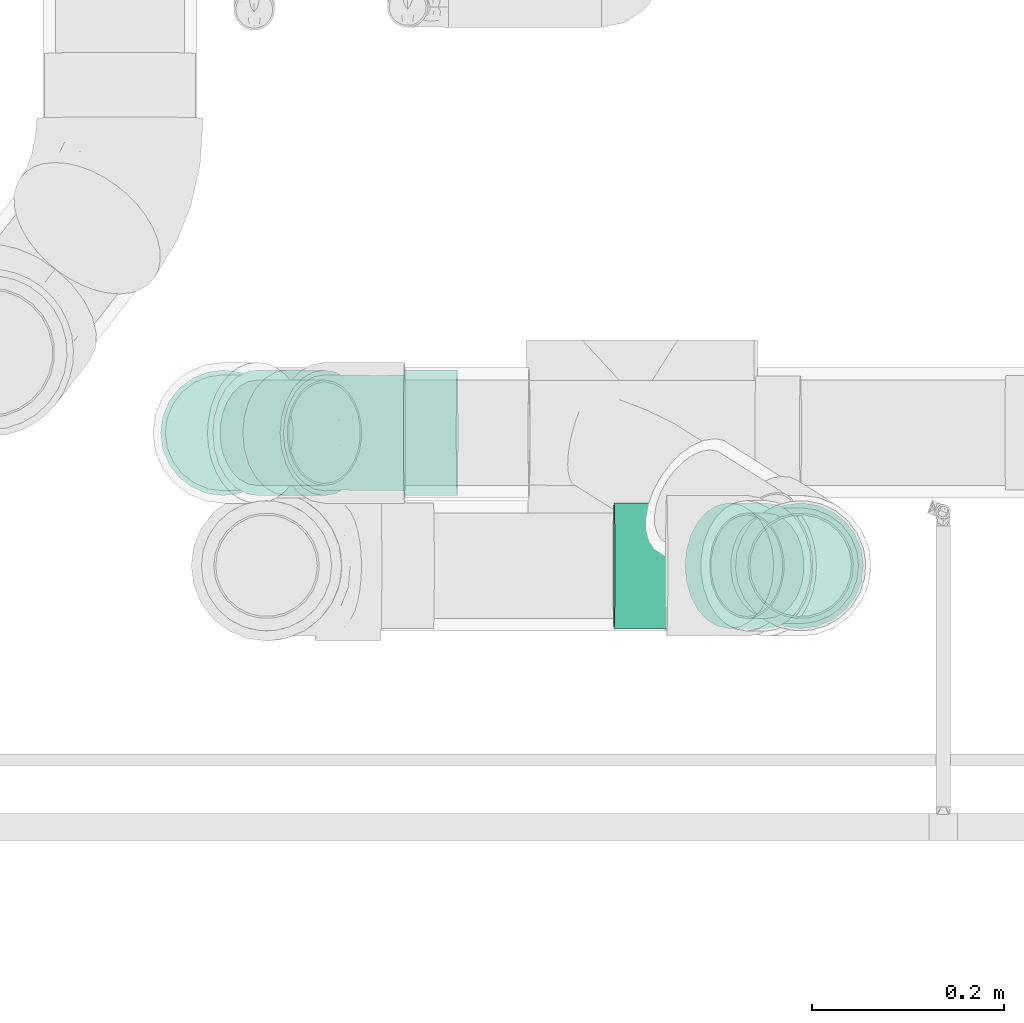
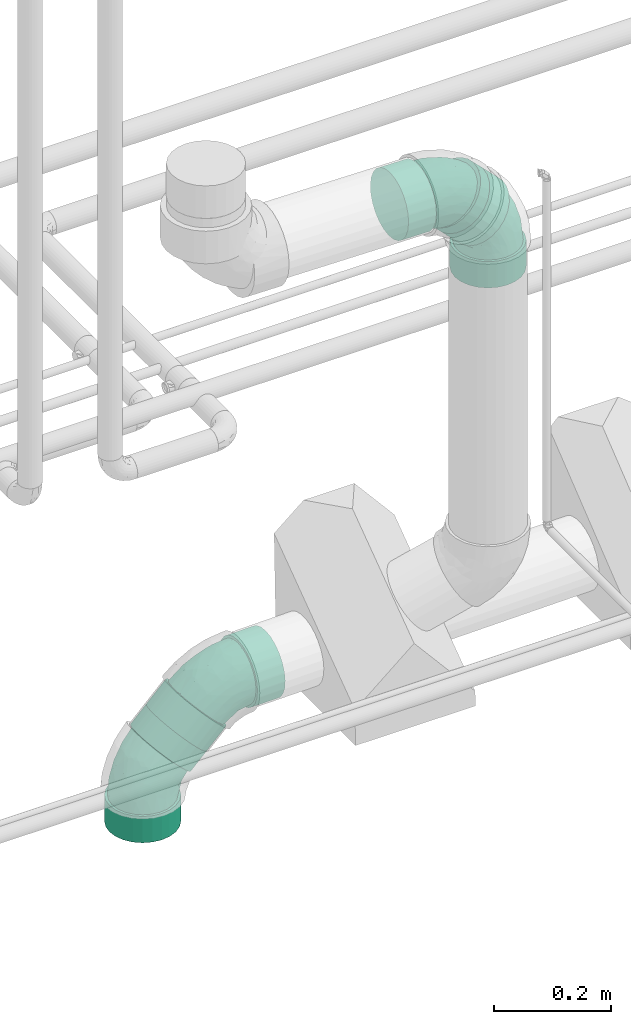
# One storey, part 55 of 156: 4 flow fittings.
"""IFC2X3 building model written with IfcOpenShell, lengths in millimetres."""

from ifc_helpers import new_model, entity, si_unit, converted_unit, derived_unit, direction, frame, origin_with_axes, place, context, subcontext, project, spatial, open_shell, surface_model, source, transform, mapped, type_object, element, save


model = new_model("IFC2X3")

# Units and contexts
model_context = context("Model", 3, precision=0.01, world=frame((0.0, 4.29681676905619e-09, 0.0)), true_north=direction((4.01073788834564e-13, 1.0)))
plan_context = context("Plan", 3, precision=0.01, world=frame((0.0, 4.29681676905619e-09, 0.0)), true_north=direction((4.01073788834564e-13, 1.0)))
body_context = subcontext(model_context, "Body", "Model", "MODEL_VIEW")
ifc_project = project(units=[converted_unit("PLANEANGLEUNIT", "DEGREE", entity("IfcPositiveLengthMeasure", 0.0174532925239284), si_unit("PLANEANGLEUNIT", "RADIAN"), dimensions=[0, 0, 0, 0, 0, 0, 0]), si_unit("AREAUNIT", "SQUARE_METRE"), si_unit("LENGTHUNIT", "METRE", prefix="MILLI"), si_unit("MASSUNIT", "GRAM", prefix="KILO"), si_unit("POWERUNIT", "WATT"), si_unit("PRESSUREUNIT", "PASCAL", prefix="KILO"), si_unit("FORCEUNIT", "NEWTON", prefix="KILO"), si_unit("ELECTRICVOLTAGEUNIT", "VOLT"), si_unit("ELECTRICCURRENTUNIT", "AMPERE"), si_unit("THERMODYNAMICTEMPERATUREUNIT", "DEGREE_CELSIUS"), si_unit("TIMEUNIT", "SECOND"), si_unit("VOLUMEUNIT", "CUBIC_METRE"), derived_unit("LINEARVELOCITYUNIT", [(si_unit("LENGTHUNIT", "METRE"), 1), (si_unit("TIMEUNIT", "SECOND"), -1)]), derived_unit("VOLUMETRICFLOWRATEUNIT", [(si_unit("VOLUMEUNIT", "CUBIC_METRE"), 1), (si_unit("TIMEUNIT", "SECOND"), -1)]), derived_unit("THERMALTRANSMITTANCEUNIT", [(si_unit("POWERUNIT", "WATT"), 1), (si_unit("THERMODYNAMICTEMPERATUREUNIT", "KELVIN"), -1), (si_unit("AREAUNIT", "SQUARE_METRE"), -1)]), derived_unit("SOUNDPRESSUREUNIT", [(si_unit("PRESSUREUNIT", "PASCAL"), 1)])], contexts=[model_context, plan_context])

# Site, building, storey
site_placement = place(None, frame((0.0, -4.29681676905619e-09, 0.0), z_axis=(0.0, 0.0, 1.0), x_axis=(1.0, 0.0, 0.0)))
site = spatial("IfcSite", under=ifc_project, at=site_placement, CompositionType="ELEMENT")
building_placement = place(site_placement, frame((0.0, 4.29681676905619e-09, 0.0), z_axis=(0.0, 0.0, 1.0), x_axis=(1.0, 0.0, 0.0)))
building = spatial("IfcBuilding", under=site, at=building_placement, Name="mc-building", CompositionType="ELEMENT")
storey_placement = place(building_placement, frame((0.0, 0.0, 205200.0), z_axis=(0.0, 0.0, 1.0), x_axis=(1.0, 0.0, 0.0)))
storey = spatial("IfcBuildingStorey", under=building, at=storey_placement, Name="Nivå D + 1,2 m", CompositionType="ELEMENT", Elevation=205200.0)

# Flow fittings
pipe_fitting_type = type_object("IfcPipeFittingType", Name="magi_sewer_bend_001", PredefinedType="BEND")
shared_shape_1 = source(origin_with_axes(), body_context, "Body", "SurfaceModel", [
    surface_model("IfcShellBasedSurfaceModel", [(-105.11984, -63.26814, -16.95265), (-105.11984, -16.95265, -63.26814), (-105.11984, -32.75, -56.72466), (-105.11984, -56.72466, -32.75), (-105.11984, -46.3155, -46.3155), (-105.11984, 46.3155, -46.3155), (-105.11984, -65.5, 0.0), (-105.11984, 32.75, -56.72466), (-105.11984, 16.95265, -63.26814), (-105.11984, 0.0, -65.5), (-105.11984, 63.26814, -16.95265), (-105.11984, 56.72466, -32.75), (-105.11984, -63.26814, 16.95265), (-105.11984, -56.72466, 32.75), (-105.11984, -46.3155, 46.3155), (-105.11984, 65.5, 0.0), (-105.11984, -16.95265, 63.26814), (-105.11984, -32.75, 56.72466), (-105.11984, 16.95265, 63.26814), (-105.11984, 0.0, 65.5), (-105.11984, 56.72466, 32.75), (-105.11984, 63.26814, 16.95265), (-105.11984, 46.3155, 46.3155), (-105.11984, 32.75, 56.72466), (-50.11984, -16.95265, 63.26814), (-50.11984, 16.95265, 63.26814), (-50.11984, 0.0, 65.5), (-50.11984, -46.3155, 46.3155), (-50.11984, -32.75, 56.72466), (-50.11984, -56.72466, 32.75), (-50.11984, -63.26814, 16.95265), (-50.11984, 65.5, 0.0), (-50.11984, 46.3155, 46.3155), (-50.11984, 32.75, 56.72466), (-50.11984, 56.72466, 32.75), (-50.11984, 63.26814, 16.95265), (-50.11984, -63.26814, -16.95265), (-50.11984, -16.95265, -63.26814), (-50.11984, -56.72466, -32.75), (-50.11984, -32.75, -56.72466), (-50.11984, -46.3155, -46.3155), (-50.11984, 46.3155, -46.3155), (-50.11984, 63.26814, -16.95265), (-50.11984, 56.72466, -32.75), (-50.11984, 32.75, -56.72466), (-50.11984, 16.95265, -63.26814), (-50.11984, 0.0, -65.5), (-50.11984, -65.5, 0.0), (29.59362, 119.06829, 16.95265), (34.22056, 114.44134, 32.75), (41.58095, 107.08095, 46.3155), (51.17321, 97.4887, 56.72466), (28.01546, 120.64645, 0.0), (62.34362, 86.31829, 63.26814), (74.33095, 74.33095, -65.5), (34.22056, 114.44134, -32.75), (29.59362, 119.06829, -16.95265), (41.58095, 107.08095, -46.3155), (62.34362, 86.31829, -63.26814), (51.17321, 97.4887, -56.72466), (74.33095, 74.33095, 65.5), (107.08095, 41.58095, -46.3155), (86.31829, 62.34362, 63.26814), (97.4887, 51.17321, 56.72466), (107.08095, 41.58095, 46.3155), (120.64645, 28.01546, 0.0), (114.44134, 34.22056, 32.75), (119.06829, 29.59362, 16.95265), (97.4887, 51.17321, -56.72466), (86.31829, 62.34362, -63.26814), (119.06829, 29.59362, -16.95265), (114.44134, 34.22056, -32.75), (81.75557, -10.87541, 0.0), (80.17741, -9.29725, 16.95265), (75.55048, -4.67032, 32.75), (68.19008, 2.69008, 46.3155), (58.59783, 12.28233, 56.72466), (47.42741, 23.45275, 63.26814), (23.45275, 47.42741, -63.26814), (35.44008, 35.44008, -65.5), (80.17741, -9.29725, -16.95265), (68.19008, 2.69008, -46.3155), (75.55048, -4.67032, -32.75), (58.59783, 12.28233, -56.72466), (47.42741, 23.45275, -63.26814), (23.45275, 47.42741, 63.26814), (12.28233, 58.59783, 56.72466), (2.69008, 68.19008, 46.3155), (-4.67032, 75.55048, 32.75), (-9.29725, 80.17741, 16.95265), (-10.87541, 81.75557, 0.0), (2.69008, 68.19008, -46.3155), (12.28233, 58.59783, -56.72466), (-9.29725, 80.17741, -16.95265), (-4.67032, 75.55048, -32.75), (35.44008, 35.44008, 65.5), (-50.11984, 30.25, -52.39454), (-50.11984, 15.65855, -58.43851), (-50.11984, 0.0, -60.5), (-50.11984, 42.77996, -42.77996), (-50.11984, 58.43851, -15.65855), (-50.11984, 52.39454, -30.25), (-50.11984, -60.5, 0.0), (-50.11984, -42.77996, -42.77996), (-50.11984, -52.39454, -30.25), (-50.11984, -30.25, -52.39454), (-50.11984, -15.65855, -58.43851), (-50.11984, -58.43851, -15.65855), (-50.11984, -42.77996, 42.77996), (-50.11984, 58.43851, 15.65855), (-50.11984, 52.39454, 30.25), (-50.11984, 15.65855, 58.43851), (-50.11984, 30.25, 52.39454), (-50.11984, 42.77996, 42.77996), (-50.11984, -30.25, 52.39454), (-50.11984, -58.43851, 15.65855), (-50.11984, -52.39454, 30.25), (-50.11984, -15.65855, 58.43851), (-50.11984, 0.0, 60.5), (-50.11984, 60.5, 0.0), (35.44008, 35.44008, -60.5), (24.36781, 46.51235, -58.43851), (14.0501, 56.83006, -52.39454), (-5.88219, 76.76235, -15.65855), (5.19008, 65.69008, -42.77996), (-1.60845, 72.48861, -30.25), (46.51235, 24.36781, -58.43851), (65.69008, 5.19008, 42.77996), (56.83006, 14.0501, -52.39454), (72.48861, -1.60845, -30.25), (65.69008, 5.19008, -42.77996), (78.22004, -7.33988, 0.0), (76.76235, -5.88219, -15.65855), (-5.88219, 76.76235, 15.65855), (24.36781, 46.51235, 58.43851), (5.19008, 65.69008, 42.77996), (-1.60845, 72.48861, 30.25), (14.0501, 56.83006, 52.39454), (76.76235, -5.88219, 15.65855), (72.48861, -1.60845, 30.25), (56.83006, 14.0501, 52.39454), (35.44008, 35.44008, 60.5), (46.51235, 24.36781, 58.43851), (-7.33988, 78.22004, 0.0), (15.40898, -37.20057, 33.71482), (-13.38469, -34.19321, 46.68416), (-19.53618, -46.27104, 35.42508), (-20.21421, -56.56285, 0.0), (-3.14418, -54.31554, 0.0), (-12.91334, -55.73755, 10.33096), (46.53273, -18.9044, 35.42508), (-23.97238, -22.18485, 55.29389), (6.21199, -14.99708, 54.53161), (1.79579, 36.37132, 56.46814), (10.937, 28.63799, 59.62004), (-18.05654, -5.82509, 59.69848), (-5.75437, 13.89228, 60.2874), (-30.31328, 8.38356, 60.13285), (-17.18515, 41.48861, 49.39252), (-26.68033, 50.73817, 38.17957), (32.63809, 1.26397, 55.29389), (-23.24601, 25.1757, 56.55898), (23.34807, -39.59646, 23.84351), (-10.84785, -52.34167, 21.0101), (18.78371, -45.3479, 13.14971), (-24.92328, 60.17012, 24.85601), (48.54351, -30.28129, 10.33096), (54.28958, -25.70237, 0.0), (-24.23293, 64.82746, 12.71177), (44.68174, -29.34056, 21.0101), (16.88687, 8.64894, 59.69848), (33.64265, -14.71385, 46.68416), (-26.96749, 65.10529, 0.0), (10.1548, -24.51586, 48.24539), (18.74299, -45.24957, 0.0), (40.63016, -36.18361, 0.0), (-18.05654, -5.82509, -59.69848), (-12.91334, -55.73755, -10.33096), (18.78371, -45.3479, -13.1497), (16.88687, 8.64894, -59.69848), (-26.98822, 24.44859, -56.46814), (-27.98374, 12.51649, -59.62004), (-17.01146, 54.74315, -38.17957), (33.64265, -14.71385, -46.68416), (-24.92328, 60.17012, -24.85601), (44.68174, -29.34056, -21.0101), (-28.70466, 62.9752, -12.71176), (-1.3645, 34.23932, -56.55898), (-10.84785, -52.34167, -21.0101), (-17.18515, 41.48861, -49.39253), (-19.53618, -46.27104, -35.42508), (-13.38469, -34.19321, -46.68416), (10.1548, -24.51586, -48.24539), (15.40898, -37.20057, -33.71482), (-23.97238, -22.18485, -55.29389), (32.63809, 1.26397, -55.29389), (6.21199, -14.99708, -54.53161), (48.54351, -30.28129, -10.33096), (15.50665, 27.3628, -60.13285), (11.48935, -44.50851, -23.84351), (46.53273, -18.9044, -35.42508), (-5.75437, 13.89228, -60.2874)], [open_shell([[[0, 1, 2]], [[3, 2, 4]], [[1, 0, 5]], [[0, 2, 3]], [[5, 0, 6]], [[1, 7, 8]], [[8, 9, 1]], [[5, 10, 11]], [[1, 5, 7]], [[6, 10, 5]], [[6, 12, 10]], [[12, 13, 14]], [[10, 14, 15]], [[15, 14, 16]], [[16, 14, 17]], [[18, 16, 19]], [[15, 20, 21]], [[20, 15, 22]], [[22, 18, 23]], [[18, 22, 15]], [[15, 16, 18]], [[14, 10, 12]], [[24, 25, 26]], [[27, 24, 28]], [[27, 29, 30]], [[24, 27, 31]], [[30, 31, 27]], [[25, 32, 33]], [[25, 24, 32]], [[34, 31, 35]], [[31, 34, 32]], [[24, 31, 32]], [[30, 36, 31]], [[31, 36, 37]], [[37, 36, 38]], [[39, 37, 38]], [[39, 38, 40]], [[37, 41, 31]], [[42, 41, 43]], [[31, 41, 42]], [[37, 44, 41]], [[37, 45, 44]], [[46, 45, 37]], [[36, 30, 47]], [[42, 10, 31]], [[43, 11, 42]], [[45, 46, 8]], [[41, 5, 43]], [[42, 11, 10]], [[10, 15, 31]], [[7, 44, 8]], [[7, 5, 41]], [[44, 45, 8]], [[5, 11, 43]], [[41, 44, 7]], [[46, 9, 8]], [[1, 37, 39]], [[40, 2, 39]], [[3, 38, 36]], [[40, 38, 4]], [[0, 36, 47]], [[37, 1, 9]], [[39, 2, 1]], [[40, 4, 2]], [[38, 3, 4]], [[0, 3, 36]], [[47, 6, 0]], [[37, 9, 46]], [[30, 12, 47]], [[29, 13, 30]], [[28, 17, 27]], [[27, 14, 29]], [[30, 13, 12]], [[12, 6, 47]], [[19, 16, 24]], [[16, 17, 28]], [[14, 27, 17]], [[14, 13, 29]], [[24, 16, 28]], [[24, 26, 19]], [[18, 25, 33]], [[32, 23, 33]], [[20, 34, 35]], [[32, 34, 22]], [[21, 35, 31]], [[25, 18, 19]], [[33, 23, 18]], [[32, 22, 23]], [[34, 20, 22]], [[21, 20, 35]], [[31, 15, 21]], [[25, 19, 26]], [[48, 49, 50]], [[48, 50, 51]], [[52, 51, 53]], [[51, 52, 48]], [[53, 54, 52]], [[52, 55, 56]], [[55, 52, 57]], [[57, 58, 59]], [[58, 57, 52]], [[58, 52, 54]], [[53, 60, 61]], [[62, 63, 64]], [[62, 64, 65]], [[66, 67, 65]], [[66, 65, 64]], [[62, 65, 61]], [[54, 68, 69]], [[68, 54, 61]], [[61, 70, 71]], [[54, 53, 61]], [[65, 70, 61]], [[61, 60, 62]], [[72, 73, 74]], [[72, 74, 75]], [[75, 76, 77]], [[72, 75, 78]], [[79, 72, 78]], [[80, 81, 82]], [[80, 72, 81]], [[83, 79, 84]], [[81, 72, 83]], [[72, 79, 83]], [[78, 75, 77]], [[78, 77, 85]], [[86, 78, 85]], [[87, 88, 89]], [[86, 87, 90]], [[87, 89, 90]], [[78, 91, 92]], [[91, 78, 93]], [[91, 93, 94]], [[93, 78, 90]], [[78, 86, 90]], [[85, 77, 95]], [[78, 58, 79]], [[92, 59, 78]], [[93, 90, 56]], [[91, 57, 92]], [[78, 59, 58]], [[58, 54, 79]], [[55, 94, 56]], [[55, 57, 91]], [[94, 93, 56]], [[57, 59, 92]], [[91, 94, 55]], [[90, 52, 56]], [[48, 89, 88]], [[87, 49, 88]], [[51, 86, 85]], [[87, 86, 50]], [[53, 85, 95]], [[89, 48, 52]], [[88, 49, 48]], [[87, 50, 49]], [[86, 51, 50]], [[53, 51, 85]], [[95, 60, 53]], [[89, 52, 90]], [[77, 62, 95]], [[76, 63, 77]], [[74, 66, 75]], [[75, 64, 76]], [[77, 63, 62]], [[62, 60, 95]], [[65, 67, 73]], [[67, 66, 74]], [[64, 75, 66]], [[64, 63, 76]], [[73, 67, 74]], [[73, 72, 65]], [[70, 80, 82]], [[81, 71, 82]], [[68, 83, 84]], [[81, 83, 61]], [[69, 84, 79]], [[80, 70, 65]], [[82, 71, 70]], [[81, 61, 71]], [[83, 68, 61]], [[69, 68, 84]], [[79, 54, 69]], [[80, 65, 72]], [[96, 97, 98]], [[99, 96, 98]], [[100, 101, 99]], [[98, 100, 99]], [[102, 100, 98]], [[103, 104, 105]], [[106, 105, 104]], [[107, 102, 104]], [[98, 106, 104]], [[104, 102, 98]], [[102, 108, 100]], [[108, 109, 100]], [[109, 108, 110]], [[111, 112, 113]], [[110, 111, 113]], [[110, 114, 111]], [[115, 116, 102]], [[102, 116, 108]], [[117, 118, 114]], [[110, 108, 114]], [[111, 114, 118]], [[119, 100, 109]], [[120, 121, 122]], [[120, 122, 123]], [[124, 125, 123]], [[124, 123, 122]], [[126, 120, 127]], [[128, 129, 130]], [[129, 128, 126]], [[129, 131, 132]], [[127, 129, 126]], [[129, 127, 131]], [[123, 127, 120]], [[133, 134, 123]], [[135, 133, 136]], [[135, 137, 134]], [[135, 134, 133]], [[123, 134, 127]], [[138, 127, 139]], [[131, 127, 138]], [[140, 141, 142]], [[140, 127, 134]], [[141, 140, 134]], [[133, 123, 143]], [[144, 145, 146]], [[147, 148, 149]], [[114, 108, 145]], [[139, 127, 150]], [[151, 145, 152]], [[146, 145, 108]], [[134, 153, 154]], [[117, 114, 151]], [[155, 156, 157]], [[118, 117, 155]], [[113, 158, 159]], [[140, 142, 160]], [[157, 111, 118]], [[112, 161, 158]], [[115, 147, 149]], [[137, 135, 158]], [[162, 163, 164]], [[158, 113, 112]], [[108, 116, 146]], [[110, 159, 165]], [[109, 110, 165]], [[138, 166, 167]], [[168, 119, 109]], [[169, 162, 164]], [[163, 149, 164]], [[112, 111, 161]], [[141, 154, 170]], [[127, 140, 171]], [[136, 133, 165]], [[170, 142, 141]], [[144, 146, 163]], [[127, 171, 150]], [[156, 154, 153]], [[171, 140, 160]], [[116, 163, 146]], [[166, 138, 169]], [[144, 150, 171]], [[157, 161, 111]], [[144, 162, 150]], [[109, 165, 168]], [[116, 115, 163]], [[172, 168, 143]], [[145, 173, 152]], [[133, 168, 165]], [[152, 170, 155]], [[136, 165, 159]], [[152, 160, 170]], [[136, 159, 135]], [[156, 155, 170]], [[134, 137, 153]], [[153, 158, 161]], [[151, 155, 117]], [[110, 113, 159]], [[169, 138, 139]], [[169, 139, 150]], [[173, 144, 171]], [[135, 159, 158]], [[158, 153, 137]], [[156, 153, 161]], [[145, 151, 114]], [[155, 151, 152]], [[170, 160, 142]], [[171, 160, 152]], [[115, 102, 147]], [[164, 148, 174]], [[115, 149, 163]], [[148, 164, 149]], [[166, 164, 175]], [[167, 166, 175]], [[167, 131, 138]], [[164, 166, 169]], [[170, 154, 156]], [[141, 134, 154]], [[155, 157, 118]], [[161, 157, 156]], [[144, 173, 145]], [[171, 152, 173]], [[143, 168, 133]], [[168, 172, 119]], [[150, 162, 169]], [[163, 162, 144]], [[175, 164, 174]], [[106, 98, 176]], [[148, 177, 178]], [[120, 126, 179]], [[180, 181, 97]], [[101, 182, 99]], [[128, 130, 183]], [[184, 182, 101]], [[129, 132, 185]], [[100, 186, 184]], [[122, 121, 187]], [[107, 177, 147]], [[96, 180, 97]], [[177, 107, 188]], [[124, 189, 182]], [[188, 104, 190]], [[190, 103, 191]], [[103, 105, 191]], [[192, 193, 191]], [[107, 104, 188]], [[103, 190, 104]], [[194, 105, 106]], [[195, 179, 126]], [[123, 125, 184]], [[196, 194, 176]], [[119, 172, 186]], [[193, 190, 191]], [[143, 123, 186]], [[196, 176, 179]], [[124, 122, 189]], [[184, 101, 100]], [[125, 182, 184]], [[194, 191, 105]], [[187, 189, 122]], [[181, 176, 98]], [[189, 187, 180]], [[99, 189, 96]], [[132, 167, 197]], [[198, 121, 120]], [[195, 126, 128]], [[199, 185, 178]], [[130, 200, 183]], [[196, 195, 183]], [[130, 129, 200]], [[201, 198, 179]], [[200, 193, 183]], [[201, 179, 176]], [[197, 167, 175]], [[198, 187, 121]], [[201, 181, 180]], [[177, 188, 178]], [[193, 199, 190]], [[183, 192, 196]], [[129, 185, 200]], [[123, 184, 186]], [[193, 200, 185]], [[125, 124, 182]], [[99, 182, 189]], [[189, 180, 96]], [[201, 180, 187]], [[176, 194, 106]], [[191, 194, 196]], [[183, 195, 128]], [[179, 195, 196]], [[147, 177, 148]], [[147, 102, 107]], [[199, 178, 188]], [[197, 178, 185]], [[178, 175, 174]], [[132, 131, 167]], [[178, 197, 175]], [[132, 197, 185]], [[176, 181, 201]], [[98, 97, 181]], [[179, 198, 120]], [[187, 198, 201]], [[193, 192, 183]], [[191, 196, 192]], [[119, 186, 100]], [[186, 172, 143]], [[190, 199, 188]], [[185, 199, 193]], [[148, 178, 174]]])]),
])
for number, where, z_axis, x_axis, name in (
    (1, (324416.64652, 462724.75736, 4021.50627000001), (0.0, 1.0, 0.0), (0.0, 0.0, 1.0), "magi_sewer_bend_001"),
    (2, (325018.86668, 462586.08797, 5053.58843), (0.0, -1.0, 0.0), (0.0, 0.0, 1.0), "magi_sewer_bend_001"),
):
    element("IfcFlowFitting", number, at=place(storey_placement, frame(where, z_axis=z_axis, x_axis=x_axis)), inside=storey, type_object=pipe_fitting_type, Name=name, context=body_context, shape_type="MappedRepresentation", body=[
        mapped(shared_shape_1, transform((0.0, 0.0, 0.0), scale=1.0)),
    ])
shared_shape_2 = source(origin_with_axes(), body_context, "Body", "SurfaceModel", [
    surface_model("IfcShellBasedSurfaceModel", [(-103.94265, -16.95265, -63.26814), (-103.94265, -32.75, -56.72466), (-103.94265, -46.3155, -46.3155), (-103.94265, -63.26814, -16.95265), (-103.94265, 56.72466, -32.75), (-103.94265, 65.5, 0.0), (-103.94265, -56.72466, -32.75), (-103.94265, 16.95265, -63.26814), (-103.94265, 46.3155, -46.3155), (-103.94265, 32.75, -56.72466), (-103.94265, 0.0, -65.5), (-103.94265, 63.26814, -16.95265), (-103.94265, -65.5, 0.0), (-103.94265, -63.26814, 16.95265), (-103.94265, -56.72466, 32.75), (-103.94265, -46.3155, 46.3155), (-103.94265, -16.95265, 63.26814), (-103.94265, 0.0, 65.5), (-103.94265, -32.75, 56.72466), (-103.94265, 63.26814, 16.95265), (-103.94265, 46.3155, 46.3155), (-103.94265, 56.72466, 32.75), (-103.94265, 16.95265, 63.26814), (-103.94265, 32.75, 56.72466), (-48.94265, -16.95265, 63.26814), (-48.94265, 16.95265, 63.26814), (-48.94265, 0.0, 65.5), (-48.94265, -46.3155, 46.3155), (-48.94265, -32.75, 56.72466), (-48.94265, -56.72466, 32.75), (-48.94265, -63.26814, 16.95265), (-48.94265, 46.3155, 46.3155), (-48.94265, 32.75, 56.72466), (-48.94265, 63.26814, 16.95265), (-48.94265, 56.72466, 32.75), (-48.94265, 63.26814, -16.95265), (-48.94265, 65.5, 0.0), (-48.94265, -63.26814, -16.95265), (-48.94265, 32.75, -56.72466), (-48.94265, -65.5, 0.0), (-48.94265, -16.95265, -63.26814), (-48.94265, -56.72466, -32.75), (-48.94265, -46.3155, -46.3155), (-48.94265, -32.75, -56.72466), (-48.94265, 0.0, -65.5), (-48.94265, 46.3155, -46.3155), (-48.94265, 56.72466, -32.75), (-48.94265, 16.95265, -63.26814), (35.27674, 113.03678, 32.75), (29.17591, 119.34442, 0.0), (30.72755, 117.74018, 16.95265), (42.51346, 105.55475, 46.3155), (35.27674, 113.03678, -32.75), (62.92725, 84.44897, 63.26814), (51.94453, 95.80398, 56.72466), (42.51346, 105.55475, -46.3155), (106.91285, 38.97233, 46.3155), (30.72755, 117.74018, -16.95265), (51.94453, 95.80398, -56.72466), (74.71315, 72.26354, -65.5), (62.92725, 84.44897, -63.26814), (86.49906, 60.07811, -63.26814), (74.71315, 72.26354, 65.5), (86.49906, 60.07811, 63.26814), (97.48178, 48.7231, 56.72466), (118.69875, 26.7869, 16.95265), (120.2504, 25.18266, 0.0), (114.14956, 31.4903, 32.75), (106.91285, 38.97233, -46.3155), (97.48178, 48.7231, -56.72466), (114.14956, 31.4903, -32.75), (118.69875, 26.7869, -16.95265), (79.16519, -11.45048, 16.95265), (46.9655, 21.84073, -63.26814), (80.71683, -13.05472, 0.0), (67.37929, 0.73495, 46.3155), (74.616, -6.74708, 32.75), (57.94821, 10.48572, 56.72466), (46.9655, 21.84073, 63.26814), (67.37929, 0.73495, -46.3155), (74.616, -6.74708, -32.75), (79.16519, -11.45048, -16.95265), (57.94821, 10.48572, -56.72466), (12.41097, 57.5666, -56.72466), (35.17959, 34.02616, -65.5), (35.17959, 34.02616, 65.5), (23.39368, 46.21159, 63.26814), (-4.25682, 74.7994, -32.75), (2.97989, 67.31737, 46.3155), (12.41097, 57.5666, 56.72466), (-4.25682, 74.7994, 32.75), (-8.80601, 79.5028, 16.95265), (-10.35766, 81.10704, 0.0), (2.97989, 67.31737, -46.3155), (23.39368, 46.21159, -63.26814), (-8.80601, 79.5028, -16.95265), (-48.94265, 15.65855, -58.43851), (-48.94265, 0.0, -60.5), (-48.94265, 58.43851, -15.65855), (-48.94265, 30.25, -52.39454), (-48.94265, 52.39454, -30.25), (-48.94265, 42.77996, -42.77996), (-48.94265, -60.5, 0.0), (-48.94265, -30.25, -52.39454), (-48.94265, -42.77996, -42.77996), (-48.94265, -15.65855, -58.43851), (-48.94265, -58.43851, -15.65855), (-48.94265, -52.39454, -30.25), (-48.94265, -58.43851, 15.65855), (-48.94265, 58.43851, 15.65855), (-48.94265, 52.39454, 30.25), (-48.94265, 42.77996, 42.77996), (-48.94265, 30.25, 52.39454), (-48.94265, 15.65855, 58.43851), (-48.94265, -52.39454, 30.25), (-48.94265, -42.77996, 42.77996), (-48.94265, -30.25, 52.39454), (-48.94265, -15.65855, 58.43851), (-48.94265, 0.0, 60.5), (-48.94265, 60.5, 0.0), (35.17959, 34.02616, -60.5), (75.80751, -7.97898, 15.65855), (46.06581, 22.77092, -58.43851), (5.43789, 64.77606, -42.77996), (24.29337, 45.2814, -58.43851), (14.14903, 55.76962, -52.39454), (-5.44833, 76.0313, 15.65855), (-1.24641, 71.68694, -30.25), (64.92129, 3.27626, -42.77996), (56.21015, 12.2827, -52.39454), (71.60559, -3.63462, -30.25), (77.24071, -9.46076, 0.0), (75.80751, -7.97898, -15.65855), (-5.44833, 76.0313, -15.65855), (-6.88153, 77.51308, 0.0), (14.14903, 55.76962, 52.39454), (5.43789, 64.77606, 42.77996), (-1.24641, 71.68694, 30.25), (24.29337, 45.2814, 58.43851), (64.92129, 3.27626, 42.77996), (71.60559, -3.63462, 30.25), (56.21015, 12.2827, 52.39454), (35.17959, 34.02616, 60.5), (46.06581, 22.77092, 58.43851), (-18.46318, -46.26504, 35.45913), (-10.23352, -52.43952, 21.0856), (15.23197, -37.65772, 33.84843), (-19.02261, -56.64547, 0.0), (-2.9416, -54.57378, 0.0), (-12.20276, -55.82035, 10.41413), (-12.67502, -34.24752, 46.72874), (45.4358, -20.41888, 35.45913), (-23.47031, -22.24137, 55.32232), (6.2066, -15.34446, 54.59221), (10.69173, 28.01752, 59.57528), (-17.21218, -5.84799, 59.70815), (-5.51584, 13.63671, 60.27728), (-29.6842, 8.34878, 60.12625), (-16.70183, 41.29161, 49.33546), (-25.55225, 50.74772, 38.14933), (32.33303, 0.33023, 55.32232), (-22.25613, 25.17126, 56.54143), (22.61414, -40.36658, 24.0355), (18.55127, -45.86397, 13.40048), (-24.26582, 59.99192, 24.78494), (47.57895, -31.63956, 10.41413), (53.05465, -27.49132, 0.0), (-23.89358, 64.45781, 12.67367), (43.81305, -30.57851, 21.0856), (16.43765, 7.76285, 59.70815), (32.92044, -15.80486, 46.72874), (2.20786, 35.99917, 56.4376), (-26.25685, 64.91431, 0.0), (9.98357, -24.68219, 48.51338), (18.55693, -45.87795, 0.0), (40.05546, -37.18213, 0.0), (-17.21218, -5.84799, -59.70815), (-12.20276, -55.82035, -10.41413), (18.55127, -45.86397, -13.40048), (16.43765, 7.76285, -59.70815), (-27.16362, 12.70561, -59.57528), (-16.91434, 54.24162, -38.14933), (32.92044, -15.80486, -46.72874), (-24.26582, 59.99192, -24.78494), (43.81305, -30.57851, -21.0856), (-27.63817, 62.94317, -12.67367), (-1.50216, 33.56592, -56.54143), (-26.61452, 24.34095, -56.4376), (-10.23352, -52.43952, -21.0856), (-16.70183, 41.29161, -49.33546), (45.4358, -20.41888, -35.45913), (15.23197, -37.65772, -33.84843), (-18.46318, -46.26504, -35.45913), (-12.67502, -34.24752, -46.72874), (9.98357, -24.68219, -48.51337), (-23.47031, -22.24137, -55.32232), (32.33303, 0.33023, -55.32232), (6.2066, -15.34446, -54.59221), (47.57895, -31.63956, -10.41413), (15.53248, 26.63824, -60.12625), (11.809, -44.73709, -24.03549), (-5.51584, 13.63671, -60.27728)], [open_shell([[[0, 1, 2]], [[0, 2, 3]], [[4, 0, 5]], [[3, 2, 6]], [[3, 5, 0]], [[7, 8, 9]], [[8, 7, 10]], [[0, 8, 10]], [[0, 4, 8]], [[4, 5, 11]], [[5, 3, 12]], [[13, 14, 15]], [[5, 13, 15]], [[16, 17, 15]], [[16, 15, 18]], [[5, 15, 17]], [[19, 20, 21]], [[22, 19, 5]], [[20, 22, 23]], [[22, 20, 19]], [[5, 17, 22]], [[13, 5, 12]], [[24, 25, 26]], [[27, 24, 28]], [[27, 29, 30]], [[24, 27, 25]], [[30, 25, 27]], [[25, 31, 32]], [[31, 25, 33]], [[31, 33, 34]], [[25, 30, 33]], [[33, 35, 36]], [[33, 30, 35]], [[37, 38, 39]], [[40, 37, 41]], [[42, 43, 40]], [[42, 40, 41]], [[44, 37, 40]], [[39, 45, 46]], [[46, 35, 39]], [[38, 44, 47]], [[38, 45, 39]], [[38, 37, 44]], [[39, 35, 30]], [[35, 11, 36]], [[46, 4, 35]], [[47, 44, 7]], [[45, 8, 46]], [[35, 4, 11]], [[11, 5, 36]], [[9, 38, 7]], [[9, 8, 45]], [[38, 47, 7]], [[8, 4, 46]], [[45, 38, 9]], [[44, 10, 7]], [[0, 40, 43]], [[42, 1, 43]], [[6, 41, 37]], [[42, 41, 2]], [[3, 37, 39]], [[40, 0, 10]], [[43, 1, 0]], [[42, 2, 1]], [[41, 6, 2]], [[3, 6, 37]], [[39, 12, 3]], [[40, 10, 44]], [[30, 13, 39]], [[29, 14, 30]], [[28, 18, 27]], [[27, 15, 29]], [[30, 14, 13]], [[13, 12, 39]], [[17, 16, 24]], [[16, 18, 28]], [[15, 27, 18]], [[15, 14, 29]], [[24, 16, 28]], [[24, 26, 17]], [[22, 25, 32]], [[31, 23, 32]], [[21, 34, 33]], [[31, 34, 20]], [[19, 33, 36]], [[25, 22, 17]], [[32, 23, 22]], [[31, 20, 23]], [[34, 21, 20]], [[19, 21, 33]], [[36, 5, 19]], [[25, 17, 26]], [[48, 49, 50]], [[51, 52, 48]], [[51, 53, 52]], [[53, 51, 54]], [[55, 53, 56]], [[48, 57, 49]], [[48, 52, 57]], [[58, 59, 60]], [[55, 52, 53]], [[55, 61, 58]], [[56, 53, 62]], [[63, 64, 56]], [[55, 56, 61]], [[65, 66, 56]], [[65, 56, 67]], [[68, 56, 66]], [[61, 68, 69]], [[59, 58, 61]], [[66, 70, 68]], [[68, 61, 56]], [[70, 66, 71]], [[62, 63, 56]], [[72, 73, 74]], [[75, 72, 76]], [[75, 77, 78]], [[72, 75, 73]], [[78, 73, 75]], [[74, 79, 80]], [[80, 81, 74]], [[79, 73, 82]], [[73, 79, 74]], [[73, 83, 84]], [[73, 78, 85]], [[86, 87, 85]], [[88, 86, 89]], [[88, 90, 91]], [[86, 88, 87]], [[91, 92, 88]], [[93, 83, 73]], [[94, 84, 83]], [[87, 92, 95]], [[93, 73, 87]], [[87, 88, 92]], [[85, 87, 73]], [[94, 60, 84]], [[83, 58, 94]], [[95, 92, 57]], [[93, 55, 83]], [[94, 58, 60]], [[60, 59, 84]], [[52, 87, 57]], [[52, 55, 93]], [[87, 95, 57]], [[55, 58, 83]], [[93, 87, 52]], [[92, 49, 57]], [[50, 91, 90]], [[88, 48, 90]], [[54, 89, 86]], [[88, 89, 51]], [[53, 86, 85]], [[91, 50, 49]], [[90, 48, 50]], [[88, 51, 48]], [[89, 54, 51]], [[53, 54, 86]], [[85, 62, 53]], [[91, 49, 92]], [[78, 63, 85]], [[77, 64, 78]], [[76, 67, 75]], [[75, 56, 77]], [[78, 64, 63]], [[63, 62, 85]], [[66, 65, 72]], [[65, 67, 76]], [[56, 75, 67]], [[56, 64, 77]], [[72, 65, 76]], [[72, 74, 66]], [[71, 81, 80]], [[79, 70, 80]], [[69, 82, 73]], [[79, 82, 68]], [[61, 73, 84]], [[81, 71, 66]], [[80, 70, 71]], [[79, 68, 70]], [[82, 69, 68]], [[61, 69, 73]], [[84, 59, 61]], [[81, 66, 74]], [[96, 97, 98]], [[99, 96, 98]], [[98, 100, 101]], [[99, 98, 101]], [[102, 98, 97]], [[103, 104, 105]], [[104, 97, 105]], [[106, 102, 107]], [[104, 107, 102]], [[104, 102, 97]], [[102, 108, 98]], [[109, 98, 108]], [[110, 109, 111]], [[112, 109, 108]], [[111, 109, 112]], [[113, 112, 108]], [[114, 115, 108]], [[116, 108, 115]], [[117, 118, 116]], [[108, 116, 118]], [[118, 113, 108]], [[119, 98, 109]], [[120, 121, 122]], [[123, 124, 125]], [[126, 120, 124]], [[127, 124, 123]], [[127, 126, 124]], [[122, 128, 129]], [[128, 122, 121]], [[130, 131, 132]], [[131, 130, 128]], [[128, 121, 131]], [[127, 133, 134]], [[120, 126, 135]], [[136, 126, 137]], [[120, 135, 121]], [[135, 126, 136]], [[121, 135, 138]], [[121, 139, 140]], [[139, 121, 141]], [[141, 142, 143]], [[142, 141, 121]], [[121, 138, 142]], [[126, 127, 134]], [[144, 145, 146]], [[147, 148, 149]], [[116, 115, 150]], [[140, 139, 151]], [[152, 150, 153]], [[144, 115, 114]], [[138, 154, 142]], [[117, 116, 152]], [[155, 156, 157]], [[118, 117, 155]], [[111, 158, 159]], [[141, 143, 160]], [[157, 113, 118]], [[112, 161, 158]], [[108, 147, 149]], [[135, 136, 158]], [[162, 145, 163]], [[158, 111, 112]], [[144, 150, 115]], [[110, 159, 164]], [[109, 110, 164]], [[121, 165, 166]], [[167, 119, 109]], [[168, 162, 163]], [[145, 149, 163]], [[112, 113, 161]], [[142, 154, 169]], [[139, 141, 170]], [[137, 126, 164]], [[169, 143, 142]], [[150, 144, 146]], [[168, 140, 151]], [[171, 154, 138]], [[170, 141, 160]], [[145, 144, 114]], [[165, 121, 168]], [[170, 151, 139]], [[157, 161, 113]], [[151, 170, 146]], [[109, 164, 167]], [[114, 108, 145]], [[172, 167, 134]], [[150, 173, 153]], [[126, 167, 164]], [[153, 169, 155]], [[137, 164, 159]], [[153, 160, 169]], [[137, 159, 136]], [[156, 155, 169]], [[138, 135, 171]], [[171, 158, 161]], [[152, 155, 117]], [[110, 111, 159]], [[168, 121, 140]], [[151, 146, 162]], [[173, 146, 170]], [[136, 159, 158]], [[158, 171, 135]], [[156, 171, 161]], [[150, 152, 116]], [[155, 152, 153]], [[169, 160, 143]], [[170, 160, 153]], [[108, 102, 147]], [[163, 148, 174]], [[108, 149, 145]], [[148, 163, 149]], [[165, 163, 175]], [[166, 165, 175]], [[166, 131, 121]], [[163, 165, 168]], [[171, 156, 154]], [[154, 156, 169]], [[155, 157, 118]], [[161, 157, 156]], [[146, 173, 150]], [[170, 153, 173]], [[134, 167, 126]], [[167, 172, 119]], [[151, 162, 168]], [[145, 162, 146]], [[175, 163, 174]], [[105, 97, 176]], [[148, 177, 178]], [[120, 122, 179]], [[180, 97, 96]], [[100, 181, 101]], [[129, 128, 182]], [[183, 181, 100]], [[130, 132, 184]], [[98, 185, 183]], [[125, 124, 186]], [[106, 177, 147]], [[99, 187, 96]], [[177, 106, 188]], [[123, 189, 181]], [[182, 190, 191]], [[192, 188, 107]], [[104, 103, 193]], [[194, 191, 193]], [[106, 107, 188]], [[104, 192, 107]], [[195, 103, 105]], [[196, 179, 122]], [[133, 127, 183]], [[197, 195, 176]], [[119, 172, 185]], [[184, 190, 130]], [[134, 133, 185]], [[197, 176, 179]], [[123, 125, 189]], [[183, 100, 98]], [[127, 181, 183]], [[195, 193, 103]], [[186, 189, 125]], [[180, 176, 97]], [[189, 186, 187]], [[101, 189, 99]], [[132, 166, 198]], [[199, 124, 120]], [[196, 122, 129]], [[200, 184, 178]], [[130, 190, 128]], [[197, 196, 182]], [[190, 182, 128]], [[201, 199, 179]], [[191, 190, 184]], [[201, 179, 176]], [[198, 166, 175]], [[199, 186, 124]], [[187, 180, 96]], [[177, 188, 178]], [[192, 193, 191]], [[182, 194, 197]], [[193, 192, 104]], [[133, 183, 185]], [[192, 191, 200]], [[127, 123, 181]], [[101, 181, 189]], [[189, 187, 99]], [[201, 187, 186]], [[176, 195, 105]], [[193, 195, 197]], [[182, 196, 129]], [[179, 196, 197]], [[147, 177, 148]], [[147, 102, 106]], [[200, 178, 188]], [[198, 178, 184]], [[178, 175, 174]], [[132, 131, 166]], [[178, 198, 175]], [[132, 198, 184]], [[187, 201, 180]], [[180, 201, 176]], [[179, 199, 120]], [[186, 199, 201]], [[191, 194, 182]], [[193, 197, 194]], [[119, 185, 98]], [[185, 172, 134]], [[192, 200, 188]], [[184, 200, 191]], [[148, 178, 174]]])]),
])
for number, where, z_axis, x_axis, name in (
    (3, (324556.72338, 462724.75736, 4161.58312), (0.0, 1.0, 0.0), (0.707106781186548, 0.0, 0.707106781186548), "magi_sewer_bend_001"),
    (4, (324928.06954, 462586.08797, 5144.38557000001), (0.0, -1.0, 0.0), (-0.707106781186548, 0.0, 0.707106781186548), "magi_sewer_bend_001"),
):
    element("IfcFlowFitting", number, at=place(storey_placement, frame(where, z_axis=z_axis, x_axis=x_axis)), inside=storey, type_object=pipe_fitting_type, Name=name, context=body_context, shape_type="MappedRepresentation", body=[
        mapped(shared_shape_2, transform((0.0, 0.0, 0.0), scale=1.0)),
    ])

save(model, "model.ifc")
